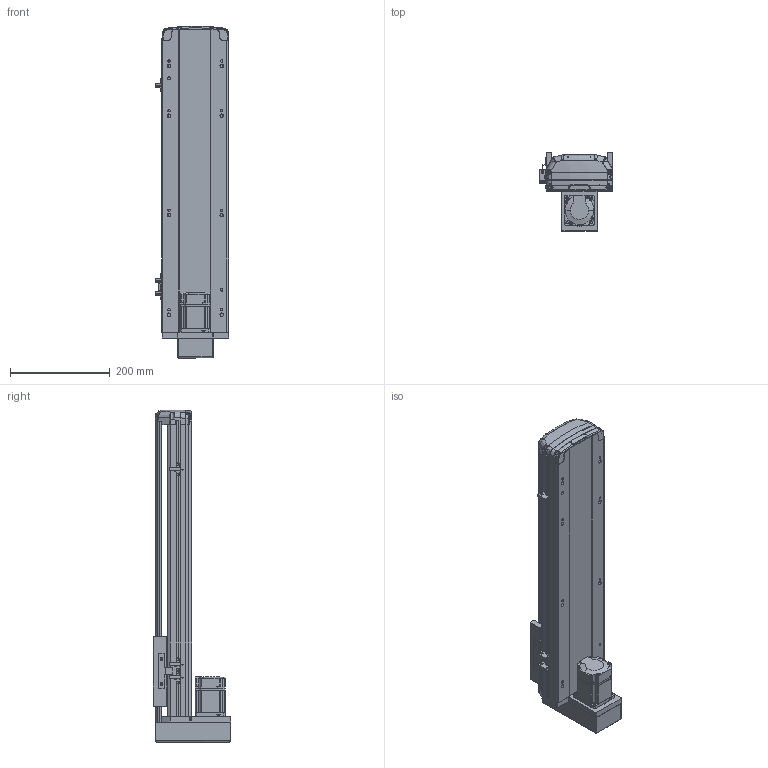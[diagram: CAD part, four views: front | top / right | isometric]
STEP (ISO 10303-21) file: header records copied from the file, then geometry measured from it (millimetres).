
FILE_DESCRIPTION (( 'STEP AP214' ), '1' );
FILE_NAME ('RTH14-XX-400-M-M20-C4.STEP', '2025-10-25T02:48:12', ( 'Microsoft' ), ( 'Microsoft' ), 'SwSTEP 2.0', 'SolidWorks 2018', '' );
FILE_SCHEMA (( 'AUTOMOTIVE_DESIGN' ));
Length unit declared in the file: millimetre
Products named in the file (10): N_RTH14-M-007P奻裔^RTH14-XX-XX-M-M20-C4; N_RTH14-M-011P菁釱^RTH14-XX-XX-M-M20-C4; RTH14-XX-400-M-M20-C4; N_RTH13-M-008萇儂啣狟殏^RTH14-XX-XX-M-M20-C4; N_RTH14-GY-001P^RTH14-XX-XX-M-M20-C4; N_RTH13-L-012感应片（外置）^RTH14-XX-XX-M-M20-C4; N_OMRON EE-SX672 传感器^RTH14-XX-XX-M-M20-C4; N_RTH14-R-004-SFSR16賑釱^RTH14-XX-XX-M-M20-C4; N_RTH13-M-018裔赽^RTH14-XX-XX-M-M20-C4; N_MSMD022P1AA_200W^RTH14-XX-XX-M-M20-C4
Assembly tree (11 placements, depth 2):
  RTH14-XX-400-M-M20-C4
    N_RTH14-M-011P菁釱^RTH14-XX-XX-M-M20-C4
    N_RTH14-M-007P奻裔^RTH14-XX-XX-M-M20-C4
    N_MSMD022P1AA_200W^RTH14-XX-XX-M-M20-C4
    N_RTH13-M-008萇儂啣狟殏^RTH14-XX-XX-M-M20-C4
    N_RTH13-M-018裔赽^RTH14-XX-XX-M-M20-C4
    N_RTH13-L-012感应片（外置）^RTH14-XX-XX-M-M20-C4
    N_OMRON EE-SX672 传感器^RTH14-XX-XX-M-M20-C4  x3
    N_RTH14-R-004-SFSR16賑釱^RTH14-XX-XX-M-M20-C4
    N_RTH14-GY-001P^RTH14-XX-XX-M-M20-C4
Bounding box: 148.5 x 156.5 x 667.37 mm (x, y, z)
Volume: 3167586.7 mm3; surface area: 738876.2 mm2
Topology: 11 solids, 11 shells, 1861 faces, 5198 edges, 3404 vertices
Faces by surface type: plane 993, cylinder 474, bspline 345, cone 45, torus 4
Entity records: 56664 total; most frequent: CARTESIAN_POINT 22905, ORIENTED_EDGE 7464, DIRECTION 5961, EDGE_CURVE 3732, VERTEX_POINT 2440, LINE 2159, VECTOR 2159, AXIS2_PLACEMENT_3D 1901
